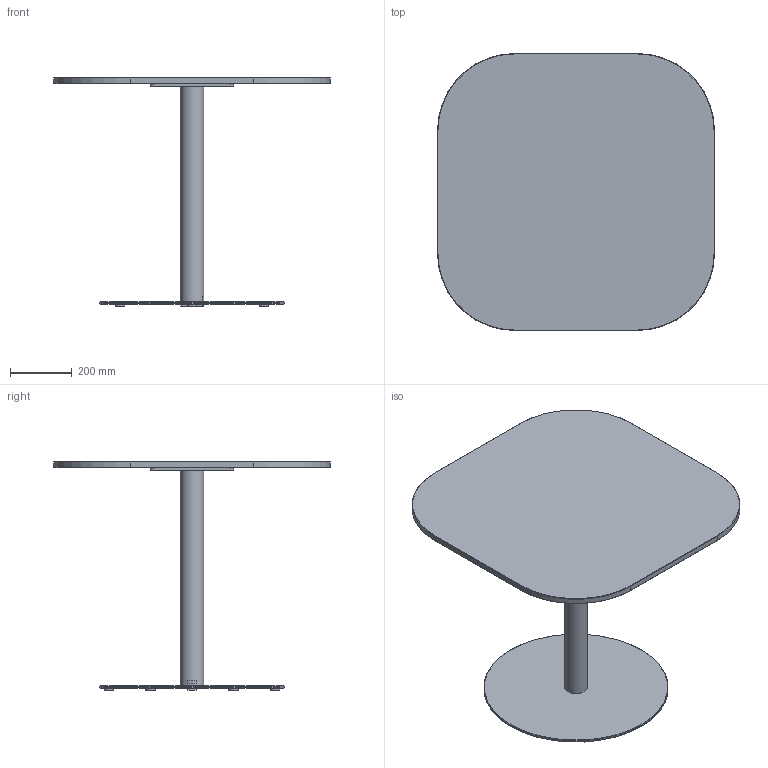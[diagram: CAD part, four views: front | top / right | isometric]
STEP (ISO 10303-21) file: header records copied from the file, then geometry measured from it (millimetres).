
FILE_DESCRIPTION( ('This file contains a STEP AP42 implementation' ,'as created by ZW3D STEP Interface translator.') ,'2;1' );
FILE_NAME( 'Henri - B_Rond - F2 - M1 - 900 x 900 x 750.stp' ,'24 912.152727', (''), ('ZWCAD Software Co.'), 'Version 1.0', 'ZW3D to STEP translator', '' );
FILE_SCHEMA(('AUTOMOTIVE_DESIGN { 1 0 10303 214 1 1 1 1 }'));
Length unit declared in the file: millimetre
Products named in the file (14): 0; PIED BISTROT PARAMETRIQUE_; COLONNE ACIER Ø76 V.02_; TUB-D076-02_; PLA-R76B-01_; CROIX ACIER 370 V.02_; CRX-X370-02_; SOCLE ACIER C Ø600 V.02_; SCL-D600-02_; PLA-R30A-01_; PLA-R30A-01; WUERTH 0276063020 Euro-screw 6.3x2 Verzinkt_; PLATEAU BISTROT PARAMETRIQUE_; insert_m6_13_
Assembly tree (24 placements, depth 3):
  0
  PIED BISTROT PARAMETRIQUE_
    COLONNE ACIER Ø76 V.02_
      TUB-D076-02_
      PLA-R76B-01_  x2
    CROIX ACIER 370 V.02_
      CRX-X370-02_
    SOCLE ACIER C Ø600 V.02_
      SCL-D600-02_
      PLA-R30A-01_
      PLA-R30A-01  x5
    WUERTH 0276063020 Euro-screw 6.3x2 Verzinkt_
    PLATEAU BISTROT PARAMETRIQUE_
      insert_m6_13_  x8
Bounding box: 900 x 900 x 744 mm (x, y, z)
Volume: 18330765.6 mm3; surface area: 2675615.6 mm2
Topology: 21 solids, 21 shells, 524 faces, 1273 edges, 802 vertices
Faces by surface type: plane 254, bspline 121, cylinder 99, cone 49, torus 1
Full cylindrical faces by diameter (mm): 4.88 x1, 6 x8, 6.3 x1, 8 x47, 12 x2, 14 x2, 30 x6, 72 x1, 76 x1, 600 x1
Entity records: 11734 total; most frequent: CARTESIAN_POINT 3302, ORIENTED_EDGE 1526, DIRECTION 1424, EDGE_CURVE 763, VERTEX_POINT 490, VECTOR 476, LINE 476, AXIS2_PLACEMENT_3D 474
